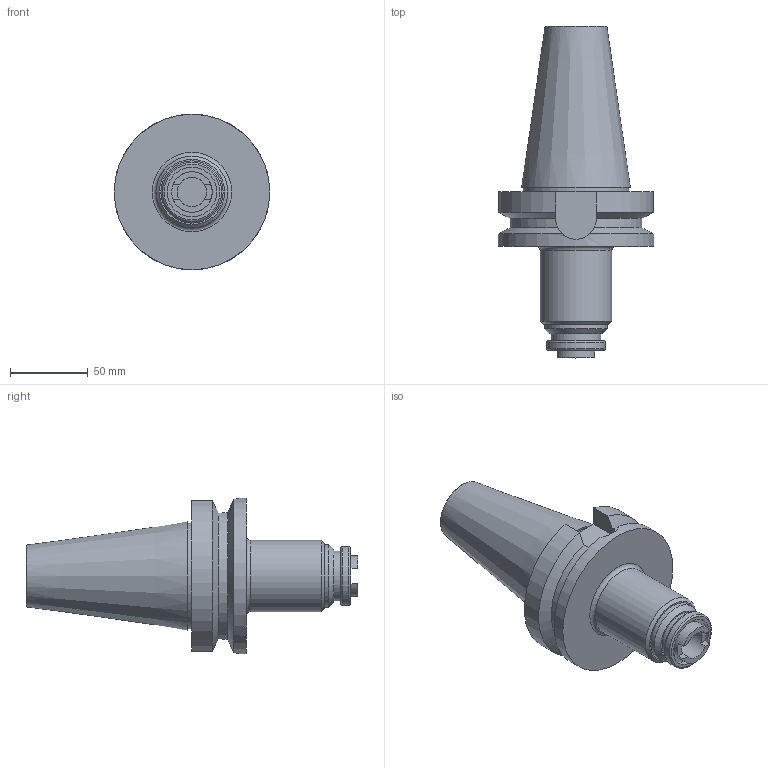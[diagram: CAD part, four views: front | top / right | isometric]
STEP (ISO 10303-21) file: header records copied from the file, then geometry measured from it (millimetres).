
FILE_DESCRIPTION(/* description */ (''),/* implementation_level */ '2;1');
FILE_NAME(/* name */ 'Z:\Проектный отдел\Макс\На сайт\BT50-GT12-110L\BT50-GT12-110L.stp',/* time_stamp */ '2024-01-25T19:54:31+03:00',/* author */ ('User'),/* organization */ (''),/* preprocessor_version */ 'ST-DEVELOPER v18',/* originating_system */ 'Autodesk Inventor 2020',/* authorisation */ '');
FILE_SCHEMA (('AUTOMOTIVE_DESIGN { 1 0 10303 214 3 1 1 }'));
Length unit declared in the file: millimetre
Products named in the file (1): BT50-ER40-80
Bounding box: 100 x 213.4 x 100 mm (x, y, z)
Volume: 528746.5 mm3; surface area: 67692.4 mm2
Topology: 1 solids, 1 shells, 59 faces, 160 edges, 115 vertices
Faces by surface type: plane 28, cylinder 19, cone 9, torus 3
Full cylindrical faces by diameter (mm): 18.8 x1, 20.752 x1, 25 x1, 26 x1, 27 x1, 30 x1, 32 x2, 38 x1, 40 x1, 46 x1, 68 x1, 100 x1
Entity records: 2019 total; most frequent: CARTESIAN_POINT 401, DIRECTION 356, ORIENTED_EDGE 320, EDGE_CURVE 160, AXIS2_PLACEMENT_3D 150, VERTEX_POINT 115, CIRCLE 90, EDGE_LOOP 71
